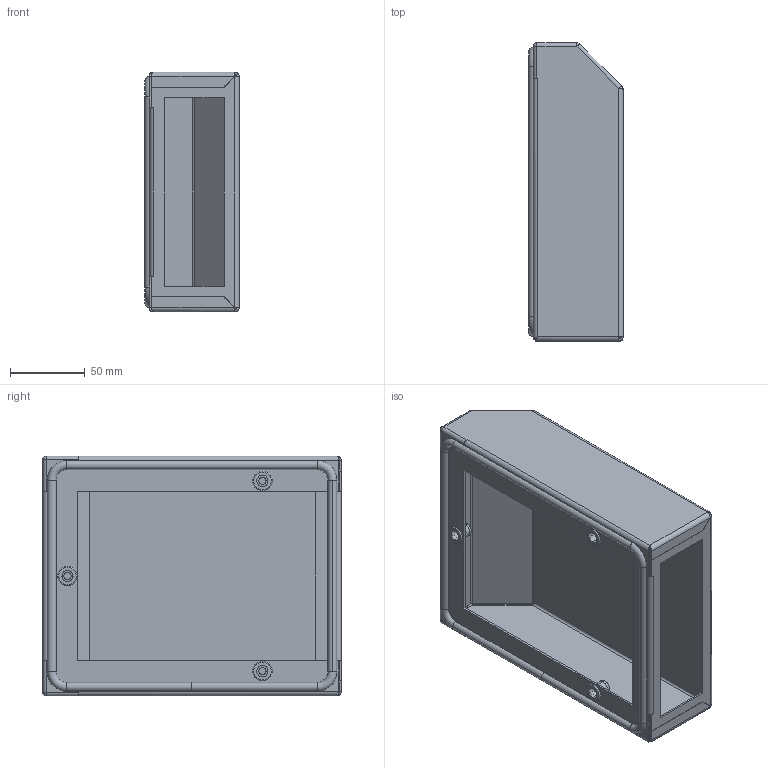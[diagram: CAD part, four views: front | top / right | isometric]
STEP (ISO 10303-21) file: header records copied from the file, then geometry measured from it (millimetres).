
FILE_DESCRIPTION (( 'STEP AP214' ), '1' );
FILE_NAME ('R 08 FA 01.000 ﾑﾁ ﾊ鮻 鈞隆 蓁 粢炅齏.STEP', '2022-06-17T08:14:08', ( '' ), ( '' ), 'SwSTEP 2.0', 'SolidWorks 2018', '' );
FILE_SCHEMA (( 'AUTOMOTIVE_DESIGN' ));
Length unit declared in the file: millimetre
Products named in the file (4): R 12 FA 00.001 ﾊ鮻 鈞隆 蓁 粢炅齏_R 08 FA 00.001 EPLAN; R 08 FA 01.000 ﾑﾁ ﾊ鮻 鈞隆 蓁 粢炅齏; 逄鋋襡樇鳺 鼨錒膰膼碭嬅R 08 FA S; Çàêëåïêà îö. âûòÿæíàÿ ðåçüáîâàÿ ðèôëåíàÿ Ì6_ƒ ©ª  Œ6 ¢ëâï¦­ ï - S2.0
Assembly tree (5 placements, depth 2):
  R 08 FA 01.000 ﾑﾁ ﾊ鮻 鈞隆 蓁 粢炅齏
    R 12 FA 00.001 ﾊ鮻 鈞隆 蓁 粢炅齏_R 08 FA 00.001 EPLAN
    逄鋋襡樇鳺 鼨錒膰膼碭嬅R 08 FA S
    Çàêëåïêà îö. âûòÿæíàÿ ðåçüáîâàÿ ðèôëåíàÿ Ì6_ƒ ©ª  Œ6 ¢ëâï¦­ ï - S2.0  x3
Bounding box: 62.98 x 199.08 x 160 mm (x, y, z)
Volume: 118853.4 mm3; surface area: 167042.4 mm2
Topology: 5 solids, 5 shells, 201 faces, 451 edges, 266 vertices
Faces by surface type: plane 97, cylinder 66, torus 18, bspline 12, cone 6, sphere 2
Entity records: 5226 total; most frequent: CARTESIAN_POINT 1484, DIRECTION 756, ORIENTED_EDGE 734, EDGE_CURVE 367, AXIS2_PLACEMENT_3D 266, VECTOR 224, LINE 224, VERTEX_POINT 214
